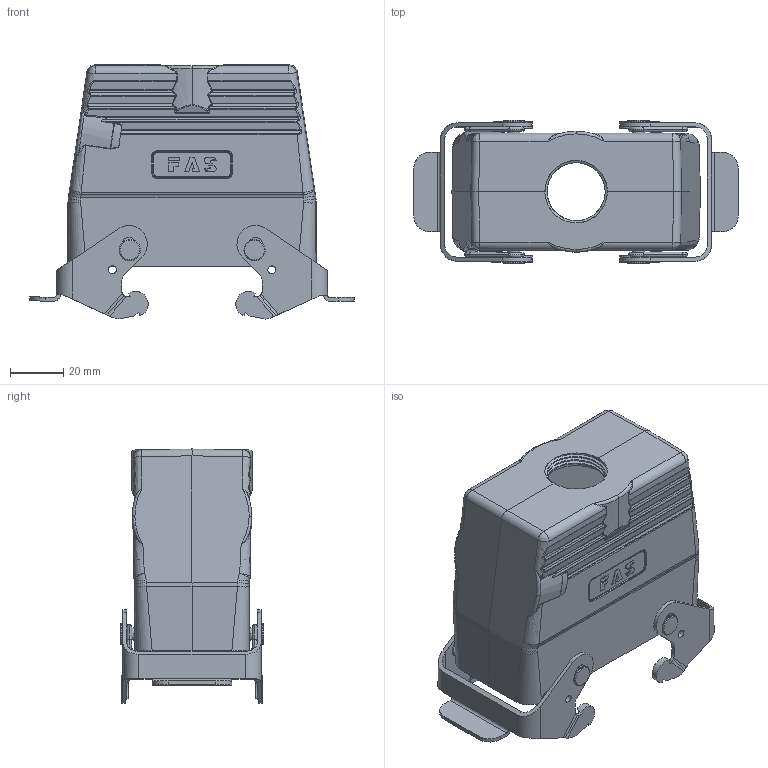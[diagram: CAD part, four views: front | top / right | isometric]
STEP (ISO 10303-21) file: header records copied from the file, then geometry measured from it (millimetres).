
FILE_DESCRIPTION (( 'STEP AP203' ), '1' );
FILE_NAME ('H16B-TGBH-M25&32&40.STEP', '2020-11-21T05:32:36', ( '' ), ( '' ), 'SwSTEP 2.0', 'SolidWorks 2016', '' );
FILE_SCHEMA (( 'CONFIG_CONTROL_DESIGN' ));
Length unit declared in the file: millimetre
Products named in the file (6): H16B-TGH-M25 奻褲; maoding; H16B-TGBH-M25&32&40; tanhuang; jinshushuangkou; 24bcaixinshuangkou
Assembly tree (8 placements, depth 3):
  H16B-TGBH-M25&32&40
    jinshushuangkou  x2
      24bcaixinshuangkou
      tanhuang
      maoding
    H16B-TGH-M25 奻褲
Bounding box: 122.16 x 54 x 95.65 mm (x, y, z)
Volume: 99235.2 mm3; surface area: 55061.1 mm2
Topology: 11 solids, 11 shells, 987 faces, 2384 edges, 1449 vertices
Faces by surface type: cylinder 343, bspline 299, plane 284, cone 61
Entity records: 34371 total; most frequent: CARTESIAN_POINT 17913, ORIENTED_EDGE 3766, DIRECTION 2617, EDGE_CURVE 1883, VERTEX_POINT 1150, AXIS2_PLACEMENT_3D 927, EDGE_LOOP 809, ADVANCED_FACE 770
